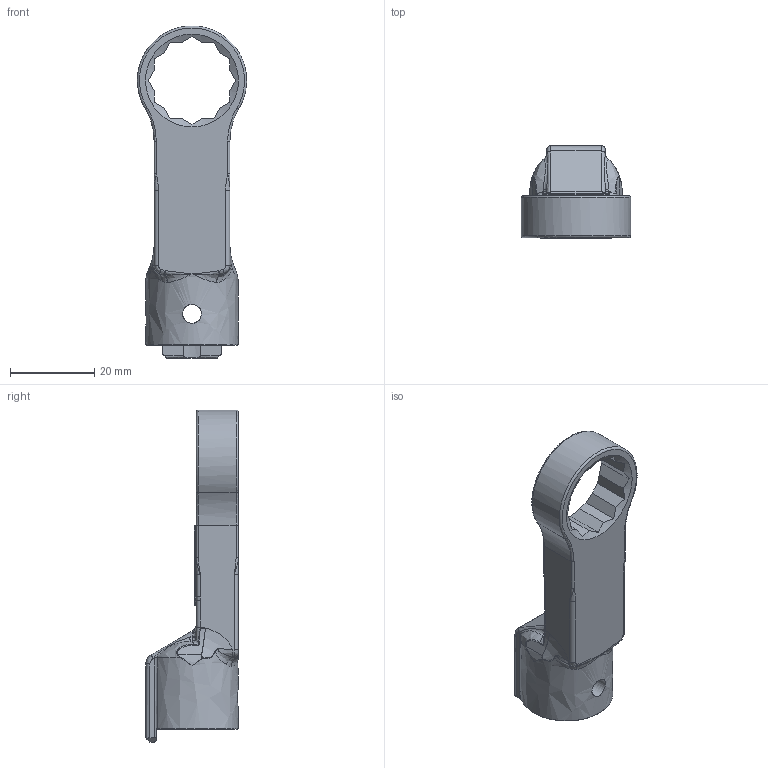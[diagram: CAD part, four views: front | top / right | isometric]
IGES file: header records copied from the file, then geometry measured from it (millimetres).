
Global section: file name: RH15DX18; native system: Autodesk Inventor 2016; preprocessor: unknown; author: Q600; date: 20151110.161653; units: millimetre
Bounding box: 26 x 22 x 78.97 mm (x, y, z)
Volume: 12625 mm3; surface area: 6304.3 mm2
Topology: 1 solids, 1 shells, 197 faces, 503 edges, 289 vertices
Faces by surface type: bspline 197
